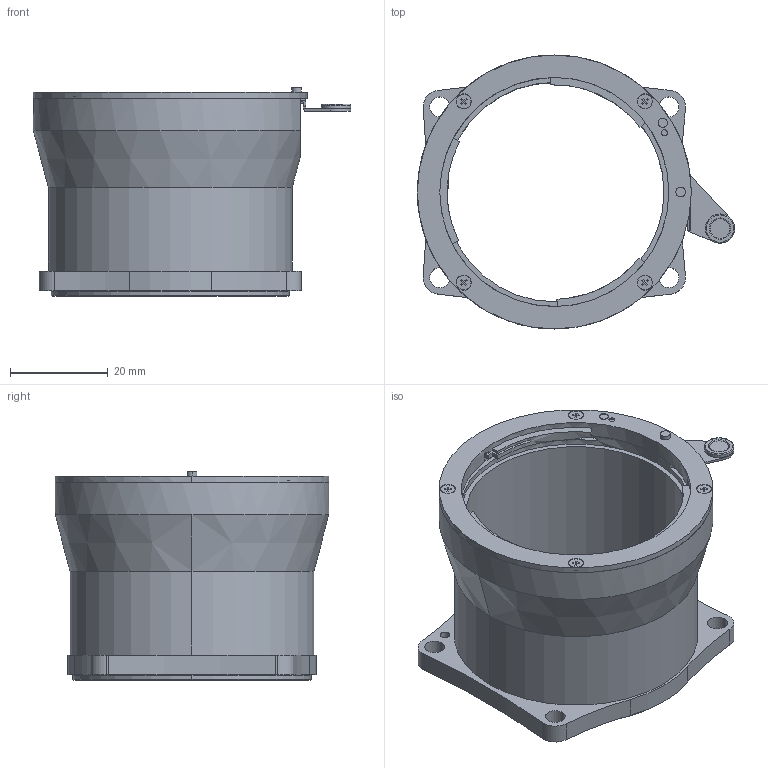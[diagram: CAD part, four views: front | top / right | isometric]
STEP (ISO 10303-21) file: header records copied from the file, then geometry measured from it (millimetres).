
FILE_DESCRIPTION (( 'STEP AP214' ), '1' );
FILE_NAME ('1240_N2F_Adapter.STEP', '2017-07-25T11:09:41', ( '' ), ( '' ), 'SwSTEP 2.0', 'SolidWorks 2016', '' );
FILE_SCHEMA (( 'AUTOMOTIVE_DESIGN' ));
Length unit declared in the file: millimetre
Products named in the file (1): 1240_N2F_Adapter
Bounding box: 65.1 x 56.2 x 42.75 mm (x, y, z)
Volume: 23147.2 mm3; surface area: 18103.3 mm2
Topology: 6 solids, 6 shells, 312 faces, 796 edges, 516 vertices
Faces by surface type: plane 153, cylinder 129, cone 20, torus 10
Entity records: 13050 total; most frequent: DIRECTION 1725, CARTESIAN_POINT 1696, ORIENTED_EDGE 1576, EDGE_CURVE 788, AXIS2_PLACEMENT_3D 637, VERTEX_POINT 516, VECTOR 451, LINE 451
